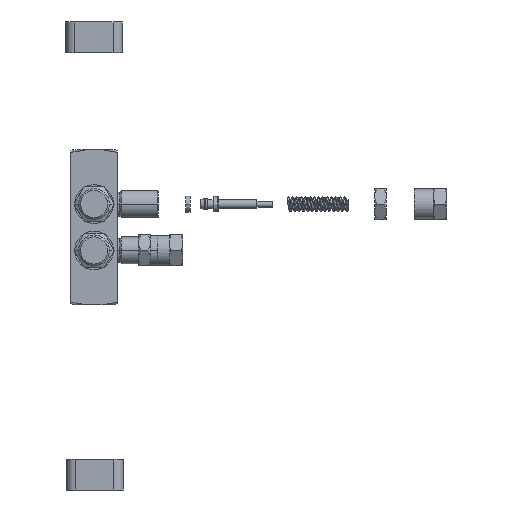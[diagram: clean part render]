
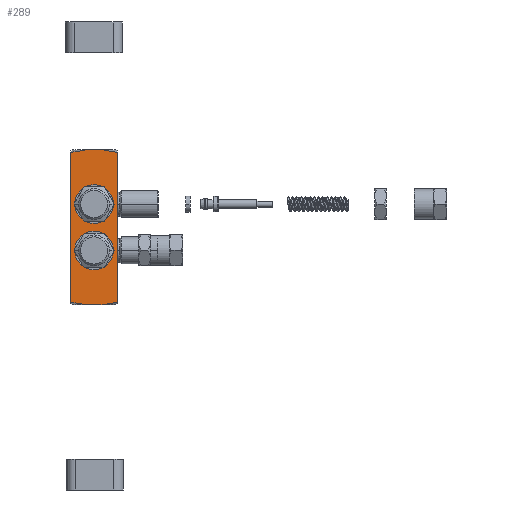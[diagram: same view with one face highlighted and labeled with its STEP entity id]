
A CAD part, front view. The second image highlights one B-rep face of the part: STEP entity #289.
In plain terms, the highlighted planar face has unit normal (0, -1, 0).
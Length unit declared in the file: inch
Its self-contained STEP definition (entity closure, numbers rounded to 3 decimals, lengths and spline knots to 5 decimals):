
#6=DIRECTION('',(1.,0.,0.));
#7=VECTOR('',#6,0.28977);
#8=CARTESIAN_POINT('',(-0.14489,-0.312,-1.25));
#9=LINE('',#8,#7);
#55=CARTESIAN_POINT('',(-0.375,-0.312,1.21146));
#56=CARTESIAN_POINT('',(-0.35199,-0.312,1.2162));
#57=CARTESIAN_POINT('',(-0.30818,-0.312,1.22486));
#58=CARTESIAN_POINT('',(-0.25012,-0.312,1.23523));
#59=CARTESIAN_POINT('',(-0.19676,-0.312,1.24358));
#60=CARTESIAN_POINT('',(-0.16192,-0.312,1.24808));
#61=CARTESIAN_POINT('',(-0.14489,-0.312,1.25));
#63=CARTESIAN_POINT('',(0.14489,-0.312,1.25));
#64=CARTESIAN_POINT('',(0.16239,-0.312,1.24802));
#65=CARTESIAN_POINT('',(0.1979,-0.312,1.24342));
#66=CARTESIAN_POINT('',(0.25165,-0.312,1.23497));
#67=CARTESIAN_POINT('',(0.3091,-0.312,1.22469));
#68=CARTESIAN_POINT('',(0.35234,-0.312,1.21613));
#69=CARTESIAN_POINT('',(0.375,-0.312,1.21146));
#71=CARTESIAN_POINT('',(0.14489,-0.312,-1.25));
#72=CARTESIAN_POINT('',(0.16239,-0.312,-1.24802));
#73=CARTESIAN_POINT('',(0.1979,-0.312,-1.24342));
#74=CARTESIAN_POINT('',(0.25165,-0.312,-1.23497));
#75=CARTESIAN_POINT('',(0.3091,-0.312,-1.22469));
#76=CARTESIAN_POINT('',(0.35234,-0.312,-1.21613));
#77=CARTESIAN_POINT('',(0.375,-0.312,-1.21146));
#79=CARTESIAN_POINT('',(-0.375,-0.312,-1.21146));
#80=CARTESIAN_POINT('',(-0.35199,-0.312,-1.2162));
#81=CARTESIAN_POINT('',(-0.30818,-0.312,-1.22486));
#82=CARTESIAN_POINT('',(-0.25012,-0.312,-1.23523));
#83=CARTESIAN_POINT('',(-0.19676,-0.312,-1.24358));
#84=CARTESIAN_POINT('',(-0.16192,-0.312,-1.24808));
#85=CARTESIAN_POINT('',(-0.14489,-0.312,-1.25));
#87=DIRECTION('',(0.,0.,1.));
#88=VECTOR('',#87,2.42293);
#89=CARTESIAN_POINT('',(-0.375,-0.312,-1.21146));
#90=LINE('',#89,#88);
#105=DIRECTION('',(1.,0.,0.));
#106=VECTOR('',#105,0.28977);
#107=CARTESIAN_POINT('',(-0.14489,-0.312,1.25));
#108=LINE('',#107,#106);
#139=DIRECTION('',(0.,0.,1.));
#140=VECTOR('',#139,2.42293);
#141=CARTESIAN_POINT('',(0.375,-0.312,-1.21146));
#142=LINE('',#141,#140);
#156=CARTESIAN_POINT('',(-0.375,-0.312,1.21146));
#171=CARTESIAN_POINT('',(-0.375,-0.312,-1.21146));
#178=CARTESIAN_POINT('',(-0.14489,-0.312,-1.25));
#180=VERTEX_POINT('',#178);
#181=CARTESIAN_POINT('',(0.14489,-0.312,-1.25));
#183=VERTEX_POINT('',#181);
#186=CARTESIAN_POINT('',(-0.14489,-0.312,1.25));
#188=VERTEX_POINT('',#186);
#189=CARTESIAN_POINT('',(0.14489,-0.312,1.25));
#191=VERTEX_POINT('',#189);
#194=VERTEX_POINT('',#156);
#196=VERTEX_POINT('',#171);
#197=VERTEX_POINT('',#69);
#198=VERTEX_POINT('',#77);
#269=CARTESIAN_POINT('',(-0.375,-0.312,-1.25));
#270=DIRECTION('',(0.,-1.,0.));
#271=DIRECTION('',(1.,0.,0.));
#272=AXIS2_PLACEMENT_3D('',#269,#270,#271);
#273=PLANE('',#272);
#274=ORIENTED_EDGE('',*,*,#259,.T.);
#276=ORIENTED_EDGE('',*,*,#275,.T.);
#278=ORIENTED_EDGE('',*,*,#277,.T.);
#280=ORIENTED_EDGE('',*,*,#279,.F.);
#282=ORIENTED_EDGE('',*,*,#281,.F.);
#283=ORIENTED_EDGE('',*,*,#208,.F.);
#284=ORIENTED_EDGE('',*,*,#226,.F.);
#286=ORIENTED_EDGE('',*,*,#285,.T.);
#287=EDGE_LOOP('',(#274,#276,#278,#280,#282,#283,#284,#286));
#288=FACE_OUTER_BOUND('',#287,.F.);
#289=ADVANCED_FACE('',(#288),#273,.T.);
#62=B_SPLINE_CURVE_WITH_KNOTS('',3,(#55,#56,#57,#58,#59,#60,#61),.UNSPECIFIED.,
.F.,.F.,(4,1,1,1,4),(0.,0.25,0.5,0.75,1.),.UNSPECIFIED.);
#70=B_SPLINE_CURVE_WITH_KNOTS('',3,(#63,#64,#65,#66,#67,#68,#69),.UNSPECIFIED.,
.F.,.F.,(4,1,1,1,4),(0.,0.25,0.5,0.75,1.),.UNSPECIFIED.);
#78=B_SPLINE_CURVE_WITH_KNOTS('',3,(#71,#72,#73,#74,#75,#76,#77),.UNSPECIFIED.,
.F.,.F.,(4,1,1,1,4),(0.,0.25,0.5,0.75,1.),.UNSPECIFIED.);
#86=B_SPLINE_CURVE_WITH_KNOTS('',3,(#79,#80,#81,#82,#83,#84,#85),.UNSPECIFIED.,
.F.,.F.,(4,1,1,1,4),(0.,0.25,0.5,0.75,1.),.UNSPECIFIED.);
#208=EDGE_CURVE('',#180,#183,#9,.T.);
#226=EDGE_CURVE('',#196,#180,#86,.T.);
#259=EDGE_CURVE('',#194,#188,#62,.T.);
#275=EDGE_CURVE('',#188,#191,#108,.T.);
#277=EDGE_CURVE('',#191,#197,#70,.T.);
#279=EDGE_CURVE('',#198,#197,#142,.T.);
#281=EDGE_CURVE('',#183,#198,#78,.T.);
#285=EDGE_CURVE('',#196,#194,#90,.T.);
